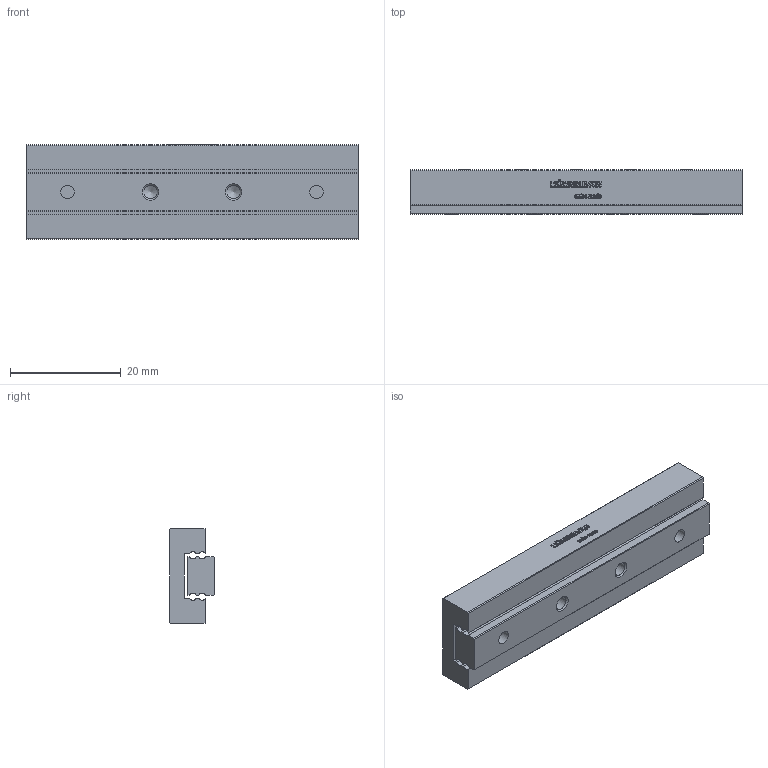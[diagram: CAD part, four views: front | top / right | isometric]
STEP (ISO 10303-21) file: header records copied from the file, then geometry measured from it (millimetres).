
FILE_DESCRIPTION(/* description */ ('STEP AP214'),/* implementation_level */ '2;1');
FILE_NAME(/* name */ 'MSK 7-60.50(0)',/* time_stamp */ '2025-04-16T16:58:11+02:00',/* author */ ('License CC BY-ND 4.0'),/* organization */ ('CADENAS'),/* preprocessor_version */ 'ST-DEVELOPER v19.3',/* originating_system */ 'PARTsolutions',/* authorisation */ ' ');
FILE_SCHEMA (('AUTOMOTIVE_DESIGN {1 0 10303 214 3 1 1}'));
Length unit declared in the file: millimetre
Products named in the file (3): MSK 7-60.50(0); MSK 7-60.50_1; MSK 7-60.50_2
Assembly tree (2 placements, depth 2):
  MSK 7-60.50(0)
    MSK 7-60.50_1
    MSK 7-60.50_2
Bounding box: 60 x 8 x 17 mm (x, y, z)
Volume: 6377 mm3; surface area: 5441.3 mm2
Topology: 2 solids, 2 shells, 545 faces, 1492 edges, 990 vertices
Faces by surface type: cylinder 316, plane 215, cone 14
Full cylindrical faces by diameter (mm): 1.567 x10, 2.459 x4, 4.5 x2
Entity records: 17441 total; most frequent: DIRECTION 3200, CARTESIAN_POINT 2998, ORIENTED_EDGE 2920, EDGE_CURVE 1460, AXIS2_PLACEMENT_3D 1192, VERTEX_POINT 990, LINE 816, VECTOR 816
